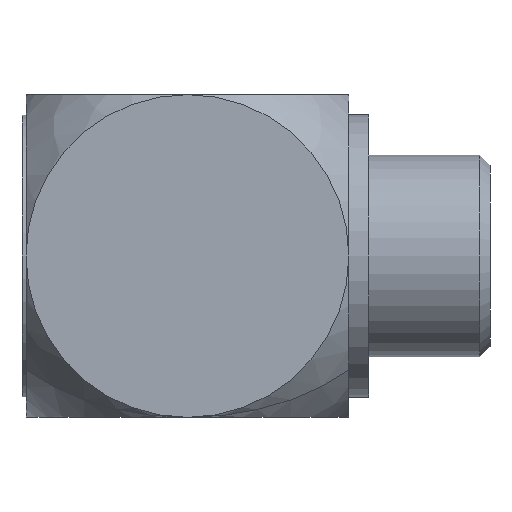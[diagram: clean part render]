
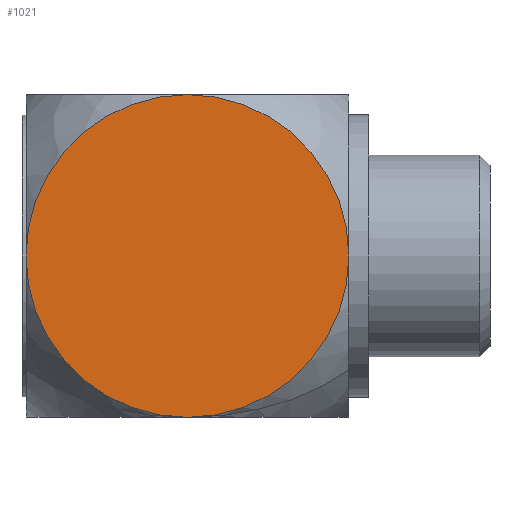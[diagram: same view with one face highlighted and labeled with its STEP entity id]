
A CAD part, left-side view. The second image highlights one B-rep face of the part: STEP entity #1021.
In plain terms, the highlighted planar face has unit normal (-1, 0, 0).
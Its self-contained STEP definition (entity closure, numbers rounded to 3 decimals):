
#34 = ORIENTED_EDGE ( 'NONE', *, *, #447, .F. ) ;
#166 = ORIENTED_EDGE ( 'NONE', *, *, #798, .F. ) ;
#185 = CARTESIAN_POINT ( 'NONE',  ( -4., 0., -4. ) ) ;
#209 = DIRECTION ( 'NONE',  ( 1., 0., 0. ) ) ;
#246 = DIRECTION ( 'NONE',  ( 0., 0., -1. ) ) ;
#324 = DIRECTION ( 'NONE',  ( 0., 0., -1. ) ) ;
#379 = DIRECTION ( 'NONE',  ( 1., 0., 0. ) ) ;
#380 = CIRCLE ( 'NONE', #1625, 4. ) ;
#384 = DIRECTION ( 'NONE',  ( 1., 0., 0. ) ) ;
#401 = CARTESIAN_POINT ( 'NONE',  ( -4., 4., 0. ) ) ;
#447 = EDGE_CURVE ( 'NONE', #1330, #1051, #576, .T. ) ;
#576 = CIRCLE ( 'NONE', #977, 4. ) ;
#605 = CIRCLE ( 'NONE', #1595, 4. ) ;
#632 = ORIENTED_EDGE ( 'NONE', *, *, #1104, .F. ) ;
#642 = VERTEX_POINT ( 'NONE', #1072 ) ;
#654 = CARTESIAN_POINT ( 'NONE',  ( -4., 15.314, 4. ) ) ;
#715 = VERTEX_POINT ( 'NONE', #1381 ) ;
#793 = DIRECTION ( 'NONE',  ( 0., 0., -1. ) ) ;
#798 = EDGE_CURVE ( 'NONE', #715, #1330, #380, .T. ) ;
#839 = EDGE_CURVE ( 'NONE', #1051, #642, #863, .T. ) ;
#863 = CIRCLE ( 'NONE', #1565, 4. ) ;
#910 = CARTESIAN_POINT ( 'NONE',  ( -4., 0., 0. ) ) ;
#925 = DIRECTION ( 'NONE',  ( 0., 0., -1. ) ) ;
#977 = AXIS2_PLACEMENT_3D ( 'NONE', #1710, #384, #246 ) ;
#1002 = CARTESIAN_POINT ( 'NONE',  ( -4., 0., 0. ) ) ;
#1019 = CARTESIAN_POINT ( 'NONE',  ( -4., 0., 0. ) ) ;
#1021 = ADVANCED_FACE ( 'NONE', ( #1735 ), #1726, .F. ) ;
#1051 = VERTEX_POINT ( 'NONE', #401 ) ;
#1072 = CARTESIAN_POINT ( 'NONE',  ( -4., 0., 4. ) ) ;
#1076 = DIRECTION ( 'NONE',  ( 1., 0., 0. ) ) ;
#1104 = EDGE_CURVE ( 'NONE', #642, #715, #605, .T. ) ;
#1162 = DIRECTION ( 'NONE',  ( 1., 0., 0. ) ) ;
#1168 = DIRECTION ( 'NONE',  ( 0., 0., -1. ) ) ;
#1330 = VERTEX_POINT ( 'NONE', #185 ) ;
#1381 = CARTESIAN_POINT ( 'NONE',  ( -4., -4., 0. ) ) ;
#1565 = AXIS2_PLACEMENT_3D ( 'NONE', #1019, #1162, #324 ) ;
#1567 = AXIS2_PLACEMENT_3D ( 'NONE', #654, #1076, #793 ) ;
#1595 = AXIS2_PLACEMENT_3D ( 'NONE', #910, #379, #925 ) ;
#1625 = AXIS2_PLACEMENT_3D ( 'NONE', #1002, #209, #1168 ) ;
#1662 = ORIENTED_EDGE ( 'NONE', *, *, #839, .F. ) ;
#1710 = CARTESIAN_POINT ( 'NONE',  ( -4., 0., 0. ) ) ;
#1726 = PLANE ( 'NONE',  #1567 ) ;
#1730 = EDGE_LOOP ( 'NONE', ( #632, #1662, #34, #166 ) ) ;
#1735 = FACE_OUTER_BOUND ( 'NONE', #1730, .T. ) ;
